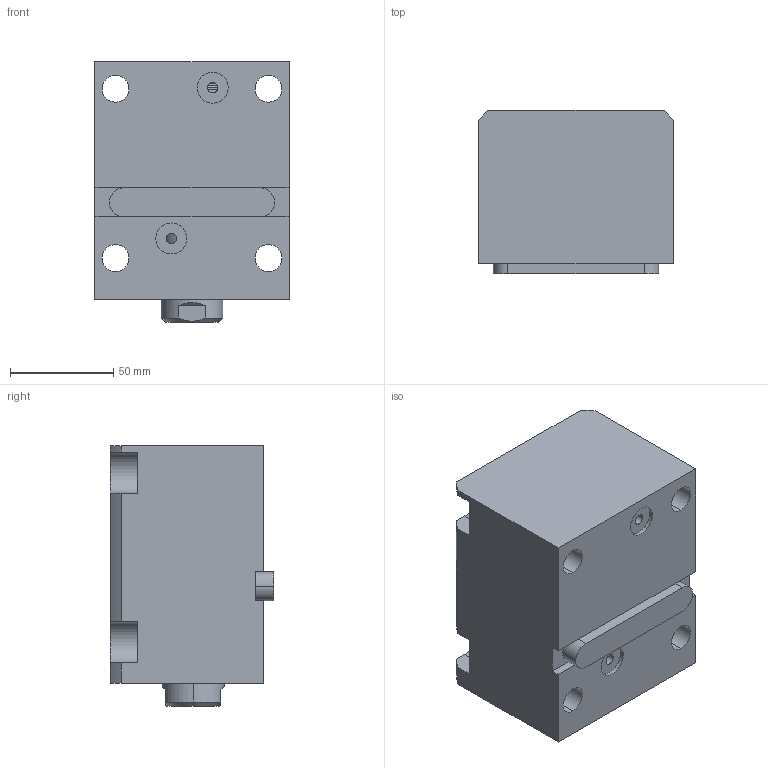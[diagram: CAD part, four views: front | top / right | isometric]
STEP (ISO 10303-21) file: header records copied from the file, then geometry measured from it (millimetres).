
FILE_DESCRIPTION (( 'STEP AP203' ), '1' );
FILE_NAME ('CHTB-LAM50-55N.STEP', '2018-05-23T10:37:56', ( '' ), ( '' ), 'SwSTEP 2.0', 'SolidWorks 2015', '' );
FILE_SCHEMA (( 'CONFIG_CONTROL_DESIGN' ));
Length unit declared in the file: millimetre
Products named in the file (4): 掛极LAM50-55N; CHTB-LAM50-55N; 活塞杆LAM50-55N; CHTM-SDMA50QG
Assembly tree (3 placements, depth 2):
  CHTB-LAM50-55N
    掛极LAM50-55N
    活塞杆LAM50-55N
    CHTM-SDMA50QG
Bounding box: 94 x 79 x 126 mm (x, y, z)
Volume: 676222.5 mm3; surface area: 115108.8 mm2
Topology: 3 solids, 3 shells, 192 faces, 522 edges, 346 vertices
Faces by surface type: cylinder 96, plane 51, torus 16, cone 15, bspline 14
Entity records: 10991 total; most frequent: CARTESIAN_POINT 5946, ORIENTED_EDGE 1032, DIRECTION 906, EDGE_CURVE 516, AXIS2_PLACEMENT_3D 355, VERTEX_POINT 346, EDGE_LOOP 222, VECTOR 196
